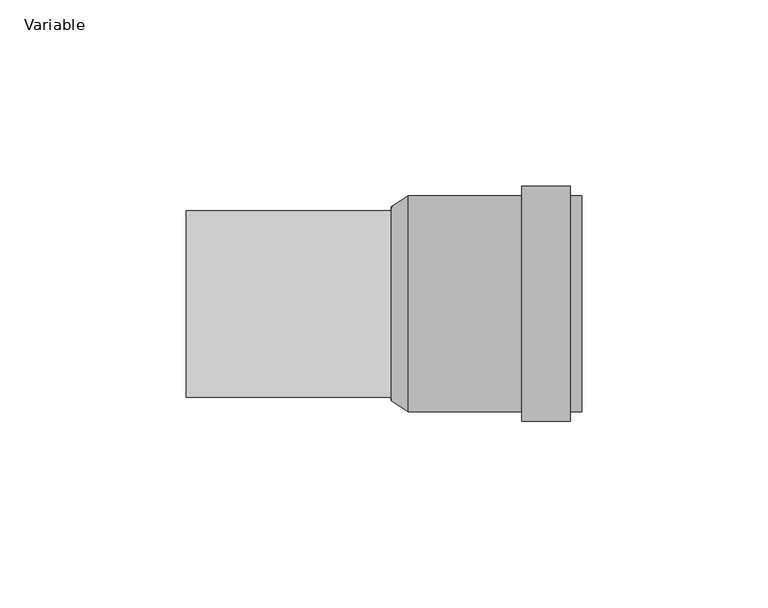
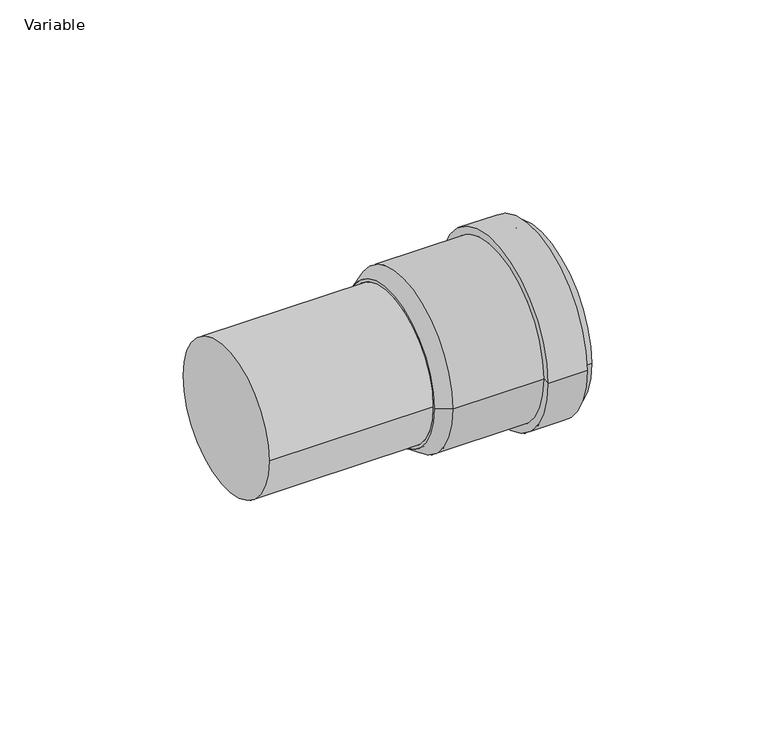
"""IFC4 building model written with IfcOpenShell, lengths in millimetres: pipe fitting geometry, AliaxisFR_Friaphon_AdaptorFriaphonPVC_FR : Variable."""

from ifc_helpers import new_model, si_unit, frame, origin, place, context, project, spatial, polyline, circle_curve, source, transform, mapped, element, save
from ifc_brep_helpers import plane_surface, cylinder_surface, revolved_surface, advanced_brep


def variable_c25a0c4f(model_context):
    return source(origin(), model_context, "Body", "AdvancedBrep", [
        advanced_brep(
        [(106.0, -29.0, 0.0), (106.0, 29.0, 0.0), (106.0, 26.0, 0.0), (106.0, -26.0, 0.0), (90.0, -31.5, 0.0), (90.0, 31.5, 0.0), (103.0, 31.5, 0.0), (103.0, -31.5, 0.0), (90.0, -29.0, 0.0), (90.0, 29.0, 0.0), (59.5, -29.0, 0.0), (59.5, 29.0, 0.0), (55.0, 26.0, 0.0), (55.0, -26.0, 0.0), (103.0, -29.0, 0.0), (103.0, 29.0, 0.0)],
        [
            (0, 1, circle_curve(frame((106.0, 0.0, 0.0), z_axis=(1.0, 0.0, 0.0), x_axis=(0.0, 1.0, 0.0)), 29.0)),
            (1, 2),
            (2, 3, circle_curve(frame((106.0, 0.0, 0.0), z_axis=(-1.0, 0.0, 0.0), x_axis=(0.0, 1.0, 0.0)), 26.0)),
            (3, 0),
            (1, 0, circle_curve(frame((106.0, 0.0, 0.0), z_axis=(1.0, 0.0, 0.0), x_axis=(0.0, 1.0, 0.0)), 29.0)),
            (3, 2, circle_curve(frame((106.0, 0.0, 0.0), z_axis=(-1.0, 0.0, 0.0), x_axis=(0.0, 1.0, 0.0)), 26.0)),
            (4, 5, circle_curve(frame((90.0, 0.0, 0.0), z_axis=(1.0, 0.0, 0.0), x_axis=(0.0, 1.0, 0.0)), 31.5)),
            (5, 6),
            (6, 7, circle_curve(frame((103.0, 0.0, 0.0), z_axis=(-1.0, 0.0, 0.0), x_axis=(0.0, 1.0, 0.0)), 31.5)),
            (7, 4),
            (5, 4, circle_curve(frame((90.0, 0.0, 0.0), z_axis=(1.0, 0.0, 0.0), x_axis=(0.0, 1.0, 0.0)), 31.5)),
            (7, 6, circle_curve(frame((103.0, 0.0, 0.0), z_axis=(-1.0, 0.0, 0.0), x_axis=(0.0, 1.0, 0.0)), 31.5)),
            (8, 9, circle_curve(frame((90.0, 0.0, 0.0), z_axis=(1.0, 0.0, 0.0), x_axis=(0.0, 1.0, 0.0)), 29.0)),
            (9, 5),
            (4, 8),
            (9, 8, circle_curve(frame((90.0, 0.0, 0.0), z_axis=(1.0, 0.0, 0.0), x_axis=(0.0, 1.0, 0.0)), 29.0)),
            (10, 11, circle_curve(frame((59.5, 0.0, 0.0), z_axis=(1.0, 0.0, 0.0), x_axis=(0.0, 1.0, 0.0)), 29.0)),
            (11, 9),
            (8, 10),
            (11, 10, circle_curve(frame((59.5, 0.0, 0.0), z_axis=(1.0, 0.0, 0.0), x_axis=(0.0, 1.0, 0.0)), 29.0)),
            (2, 12),
            (12, 13, circle_curve(frame((55.0, 0.0, 0.0), z_axis=(-1.0, 0.0, 0.0), x_axis=(0.0, 1.0, 0.0)), 26.0)),
            (13, 3),
            (13, 12, circle_curve(frame((55.0, 0.0, 0.0), z_axis=(-1.0, 0.0, 0.0), x_axis=(0.0, 1.0, 0.0)), 26.0)),
            (12, 11),
            (10, 13),
            (14, 15, circle_curve(frame((103.0, 0.0, 0.0), z_axis=(1.0, 0.0, 0.0), x_axis=(0.0, 1.0, 0.0)), 29.0)),
            (15, 1),
            (0, 14),
            (15, 14, circle_curve(frame((103.0, 0.0, 0.0), z_axis=(1.0, 0.0, 0.0), x_axis=(0.0, 1.0, 0.0)), 29.0)),
            (6, 15),
            (14, 7),
        ],
        [
            plane_surface(frame((106.0, 0.0, 0.0), z_axis=(1.0, 0.0, 0.0), x_axis=(0.0, 1.0, 0.0))),
            cylinder_surface(frame((55.0, 0.0, 0.0), z_axis=(-1.0, 0.0, 0.0), x_axis=(0.0, 1.0, 0.0)), 31.5),
            plane_surface(frame((90.0, 0.0, 0.0), z_axis=(-1.0, 0.0, 0.0), x_axis=(0.0, 1.0, 0.0))),
            cylinder_surface(frame((55.0, 0.0, 0.0), z_axis=(-1.0, 0.0, 0.0), x_axis=(0.0, 1.0, 0.0)), 29.0),
            revolved_surface(polyline([(55.0, 26.0, 0.0), (106.0, 26.0, 0.0)]), (55.0, 0.0, 0.0), (-1.0, 0.0, 0.0)),
            revolved_surface(polyline([(59.5, 29.0, 0.0), (55.0, 26.0, 0.0)]), (55.0, 0.0, 0.0), (-1.0, 0.0, 0.0)),
            plane_surface(frame((103.0, 0.0, 0.0), z_axis=(1.0, 0.0, 0.0), x_axis=(0.0, 1.0, 0.0))),
        ],
        [
            (0, [[1, 2, 3, 4]]),
            (0, [[5, -4, 6, -2]]),
            (1, [[7, 8, 9, 10]]),
            (1, [[11, -10, 12, -8]]),
            (2, [[13, 14, -7, 15]]),
            (2, [[16, -15, -11, -14]]),
            (3, [[17, 18, -13, 19]]),
            (3, [[20, -19, -16, -18]]),
            (4, [[-3, 21, 22, 23]]),
            (4, [[-6, -23, 24, -21]]),
            (5, [[-22, 25, -17, 26]]),
            (5, [[-24, -26, -20, -25]]),
            (3, [[27, 28, -1, 29]]),
            (3, [[30, -29, -5, -28]]),
            (6, [[-9, 31, -27, 32]]),
            (6, [[-12, -32, -30, -31]]),
        ],
    ),
        advanced_brep(
        [(58.0, -26.0, 0.0), (58.0, 26.0, 0.0), (55.0, -26.0, 0.0), (55.0, 26.0, 0.0), (55.0, -25.0, 0.0), (55.0, 25.0, 0.0), (0.0, -25.0, 0.0), (0.0, 25.0, 0.0)],
        [
            (0, 1, circle_curve(frame((58.0, 0.0, 0.0), z_axis=(1.0, 0.0, 0.0), x_axis=(0.0, 1.0, 0.0)), 26.0)),
            (1, 0, circle_curve(frame((58.0, 0.0, 0.0), z_axis=(1.0, 0.0, 0.0), x_axis=(0.0, 1.0, 0.0)), 26.0)),
            (2, 3, circle_curve(frame((55.0, 0.0, 0.0), z_axis=(-1.0, 0.0, 0.0), x_axis=(0.0, 1.0, 0.0)), 26.0)),
            (3, 2, circle_curve(frame((55.0, 0.0, 0.0), z_axis=(-1.0, 0.0, 0.0), x_axis=(0.0, 1.0, 0.0)), 26.0)),
            (4, 5, circle_curve(frame((55.0, 0.0, 0.0), z_axis=(1.0, 0.0, 0.0), x_axis=(0.0, 1.0, 0.0)), 25.0)),
            (5, 4, circle_curve(frame((55.0, 0.0, 0.0), z_axis=(1.0, 0.0, 0.0), x_axis=(0.0, 1.0, 0.0)), 25.0)),
            (0, 2),
            (3, 1),
            (6, 7, circle_curve(frame((0.0, 0.0, 0.0), z_axis=(-1.0, 0.0, 0.0), x_axis=(0.0, 1.0, 0.0)), 25.0)),
            (7, 6, circle_curve(frame((0.0, 0.0, 0.0), z_axis=(-1.0, 0.0, 0.0), x_axis=(0.0, 1.0, 0.0)), 25.0)),
            (7, 5),
            (4, 6),
        ],
        [
            plane_surface(frame((58.0, 26.0, 0.0), z_axis=(1.0, 0.0, 0.0), x_axis=(0.0, 0.0, 1.0))),
            plane_surface(frame((55.0, 26.0, 0.0), z_axis=(-1.0, 0.0, 0.0), x_axis=(0.0, 0.0, -1.0))),
            cylinder_surface(frame((55.0, 0.0, 0.0), z_axis=(1.0, 0.0, 0.0), x_axis=(0.0, 1.0, 0.0)), 26.0),
            plane_surface(frame((0.0, 25.0, 0.0), z_axis=(-1.0, 0.0, 0.0), x_axis=(0.0, 0.0, -1.0))),
            cylinder_surface(frame((0.0, 0.0, 0.0), z_axis=(1.0, 0.0, 0.0), x_axis=(0.0, 1.0, 0.0)), 25.0),
        ],
        [
            (0, [[1, 2]]),
            (1, [[3, 4], [5, 6]]),
            (2, [[-1, 7, -4, 8]]),
            (2, [[-2, -8, -3, -7]]),
            (3, [[9, 10]]),
            (4, [[-10, 11, -5, 12]]),
            (4, [[-9, -12, -6, -11]]),
        ],
    ),
    ])


if __name__ == "__main__":
    model = new_model("IFC4")
    model_context = context("Model", 3, world=origin())
    ifc_project = project(units=[si_unit("LENGTHUNIT", "METRE", prefix="MILLI")], contexts=[model_context])
    site = spatial("IfcSite", under=ifc_project)
    building = spatial("IfcBuilding", under=site)
    placement = place(None, origin())
    variable_shape = variable_c25a0c4f(model_context)
    element("IfcPipeFitting", 1, ObjectType="AliaxisFR_Friaphon_AdaptorFriaphonPVC_FR : Variable", at=placement, inside=building, context=model_context, shape_type="MappedRepresentation", body=[
        mapped(variable_shape, transform((0.0, 0.0, 0.0), x_axis=(1.0, 0.0, 0.0), y_axis=(0.0, 1.0, 0.0), z_axis=(0.0, 0.0, 1.0))),
    ])
    save(model, "model.ifc")
